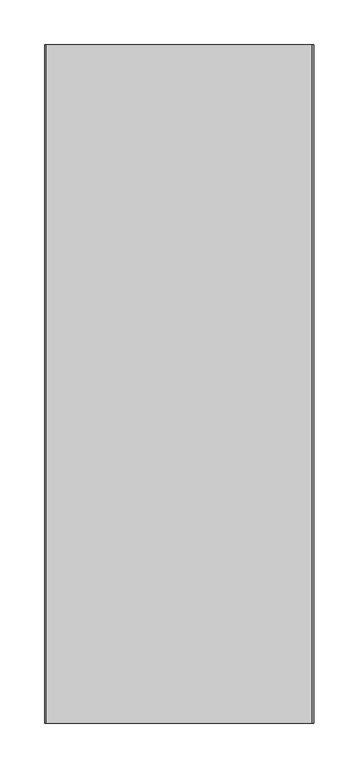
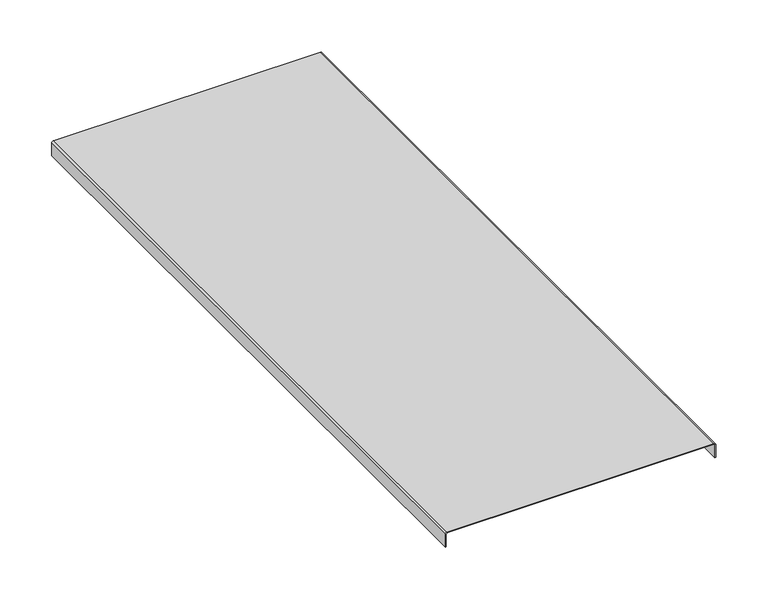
"""IFC4 building model written with IfcOpenShell, lengths in millimetres: proxy geometry, Cable_Tray_Cover_CT_Basorcanal : Basorcanal CT 100X300 (cover)."""

from ifc_helpers import new_model, si_unit, point, frame, frame_2d, origin, place, context, project, spatial, polyline, circle_curve, trimmed, segment, composite_curve, outline, extrude, source, transform, mapped, element, save


def generic_models_a58146f8(model_context):
    return source(origin(), model_context, "Body", "SweptSolid", [
        extrude(outline(composite_curve([segment(trimmed(circle_curve(frame_2d((-1.0, -149.0)), 1.0), [point((-1.0, -150.0))], [point((0.0, -149.0))], True, "CARTESIAN"), True, "CONTINUOUS"), segment(polyline([(0.0, -149.0), (0.0, 149.0)]), True, "CONTINUOUS"), segment(trimmed(circle_curve(frame_2d((-1.0, 149.0)), 1.0), [point((0.0, 149.0))], [point((-1.0, 150.0))], True, "CARTESIAN"), True, "CONTINUOUS"), segment(polyline([(-1.0, 150.0), (-16.0, 150.0), (-16.0, 151.0), (-1.0, 151.0)]), True, "CONTINUOUS"), segment(trimmed(circle_curve(frame_2d((-1.0, 149.0)), 2.0), [point((-1.0, 151.0))], [point((1.0, 149.0))], False, "CARTESIAN"), True, "CONTINUOUS"), segment(polyline([(1.0, 149.0), (1.0, -149.0)]), True, "CONTINUOUS"), segment(trimmed(circle_curve(frame_2d((-1.0, -149.0)), 2.0), [point((1.0, -149.0))], [point((-1.0, -151.0))], False, "CARTESIAN"), True, "CONTINUOUS"), segment(polyline([(-1.0, -151.0), (-16.0, -151.0), (-16.0, -150.0), (-1.0, -150.0)]), True, "CONTINUOUS")], self_intersect=False)), frame((0.0, 0.0, 0.0), z_axis=(0.0, 1.0, 0.0), x_axis=(0.0, 0.0, 1.0)), (0.0, 0.0, 1.0), 761.1),
    ])


if __name__ == "__main__":
    model = new_model("IFC4")
    model_context = context("Model", 3, world=origin())
    ifc_project = project(units=[si_unit("LENGTHUNIT", "METRE", prefix="MILLI")], contexts=[model_context])
    site = spatial("IfcSite", under=ifc_project)
    building = spatial("IfcBuilding", under=site)
    placement = place(None, origin())
    generic_models_shape = generic_models_a58146f8(model_context)
    element("IfcBuildingElementProxy", 1, Name="Cable_Tray_Cover_CT_Basorcanal : Basorcanal CT 100X300 (cover)", ObjectType="Cable_Tray_Cover_CT_Basorcanal : Basorcanal CT 100X300 (cover)", at=placement, inside=building, context=model_context, shape_type="MappedRepresentation", body=[
        mapped(generic_models_shape, transform((0.0, 0.0, 0.0), x_axis=(1.0, 0.0, 0.0), y_axis=(0.0, 1.0, 0.0), z_axis=(0.0, 0.0, 1.0))),
    ])
    save(model, "model.ifc")
